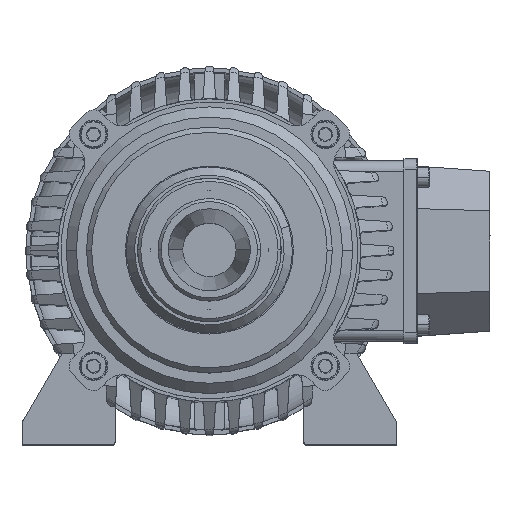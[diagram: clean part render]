
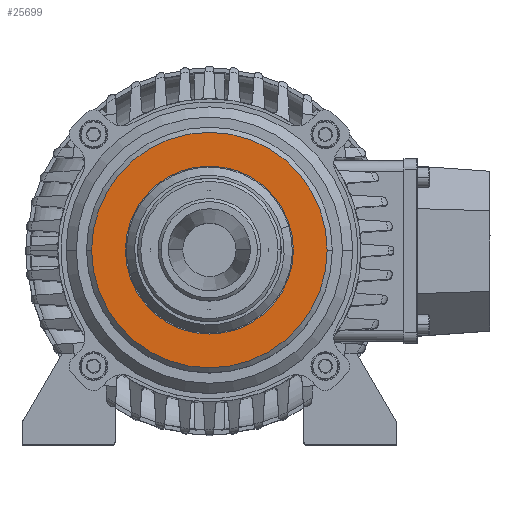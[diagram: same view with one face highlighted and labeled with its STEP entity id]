
A CAD part, top view. The second image highlights one B-rep face of the part: STEP entity #25699.
In plain terms, the highlighted planar face has unit normal (0, 0, 1).
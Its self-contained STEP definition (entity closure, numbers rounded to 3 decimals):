
#3864 = CARTESIAN_POINT ( 'NONE',  ( 0., 0., -0.791 ) ) ;
#4577 = CARTESIAN_POINT ( 'NONE',  ( 0., 0., -0.791 ) ) ;
#6056 = EDGE_CURVE ( 'NONE', #64270, #47497, #43778, .T. ) ;
#7772 = CARTESIAN_POINT ( 'NONE',  ( 0., 57.5, -0.791 ) ) ;
#7852 = CARTESIAN_POINT ( 'NONE',  ( 0., 0., -0.791 ) ) ;
#8063 = EDGE_CURVE ( 'NONE', #70892, #10522, #14308, .T. ) ;
#10522 = VERTEX_POINT ( 'NONE', #60454 ) ;
#11517 = AXIS2_PLACEMENT_3D ( 'NONE', #7852, #79449, #71324 ) ;
#12546 = FACE_BOUND ( 'NONE', #16394, .T. ) ;
#13080 = CARTESIAN_POINT ( 'NONE',  ( 41., 0., -0.791 ) ) ;
#14308 = CIRCLE ( 'NONE', #75201, 57.5 ) ;
#16394 = EDGE_LOOP ( 'NONE', ( #68246, #61055 ) ) ;
#18219 = EDGE_CURVE ( 'NONE', #47497, #64270, #64538, .T. ) ;
#22886 = FACE_OUTER_BOUND ( 'NONE', #67901, .T. ) ;
#24181 = PLANE ( 'NONE',  #77894 ) ;
#25699 = ADVANCED_FACE ( 'NONE', ( #12546, #22886 ), #24181, .F. ) ;
#27112 = DIRECTION ( 'NONE',  ( 1., 0., 0. ) ) ;
#28929 = ORIENTED_EDGE ( 'NONE', *, *, #70472, .T. ) ;
#35340 = DIRECTION ( 'NONE',  ( 0., 0., 1. ) ) ;
#43433 = CARTESIAN_POINT ( 'NONE',  ( 0., 0., -0.791 ) ) ;
#43778 = CIRCLE ( 'NONE', #11517, 41. ) ;
#47497 = VERTEX_POINT ( 'NONE', #13080 ) ;
#54005 = CARTESIAN_POINT ( 'NONE',  ( -41., 0., -0.791 ) ) ;
#55587 = CIRCLE ( 'NONE', #56842, 57.5 ) ;
#56842 = AXIS2_PLACEMENT_3D ( 'NONE', #43433, #35340, #27112 ) ;
#57770 = CARTESIAN_POINT ( 'NONE',  ( -57.5, 0., -0.791 ) ) ;
#59248 = DIRECTION ( 'NONE',  ( 1., 0., 0. ) ) ;
#59744 = ORIENTED_EDGE ( 'NONE', *, *, #8063, .T. ) ;
#59964 = DIRECTION ( 'NONE',  ( 1., 0., 0. ) ) ;
#60454 = CARTESIAN_POINT ( 'NONE',  ( 57.5, 0., -0.791 ) ) ;
#61055 = ORIENTED_EDGE ( 'NONE', *, *, #6056, .F. ) ;
#64270 = VERTEX_POINT ( 'NONE', #54005 ) ;
#64538 = CIRCLE ( 'NONE', #78467, 41. ) ;
#67364 = DIRECTION ( 'NONE',  ( 0., 0., 1. ) ) ;
#67901 = EDGE_LOOP ( 'NONE', ( #59744, #28929 ) ) ;
#68082 = DIRECTION ( 'NONE',  ( 0., 0., 1. ) ) ;
#68246 = ORIENTED_EDGE ( 'NONE', *, *, #18219, .F. ) ;
#70472 = EDGE_CURVE ( 'NONE', #10522, #70892, #55587, .T. ) ;
#70892 = VERTEX_POINT ( 'NONE', #57770 ) ;
#71244 = DIRECTION ( 'NONE',  ( -1., 0., 0. ) ) ;
#71324 = DIRECTION ( 'NONE',  ( 1., 0., 0. ) ) ;
#75201 = AXIS2_PLACEMENT_3D ( 'NONE', #3864, #67364, #59248 ) ;
#77894 = AXIS2_PLACEMENT_3D ( 'NONE', #7772, #79368, #71244 ) ;
#78467 = AXIS2_PLACEMENT_3D ( 'NONE', #4577, #68082, #59964 ) ;
#79368 = DIRECTION ( 'NONE',  ( 0., 0., -1. ) ) ;
#79449 = DIRECTION ( 'NONE',  ( 0., 0., 1. ) ) ;
